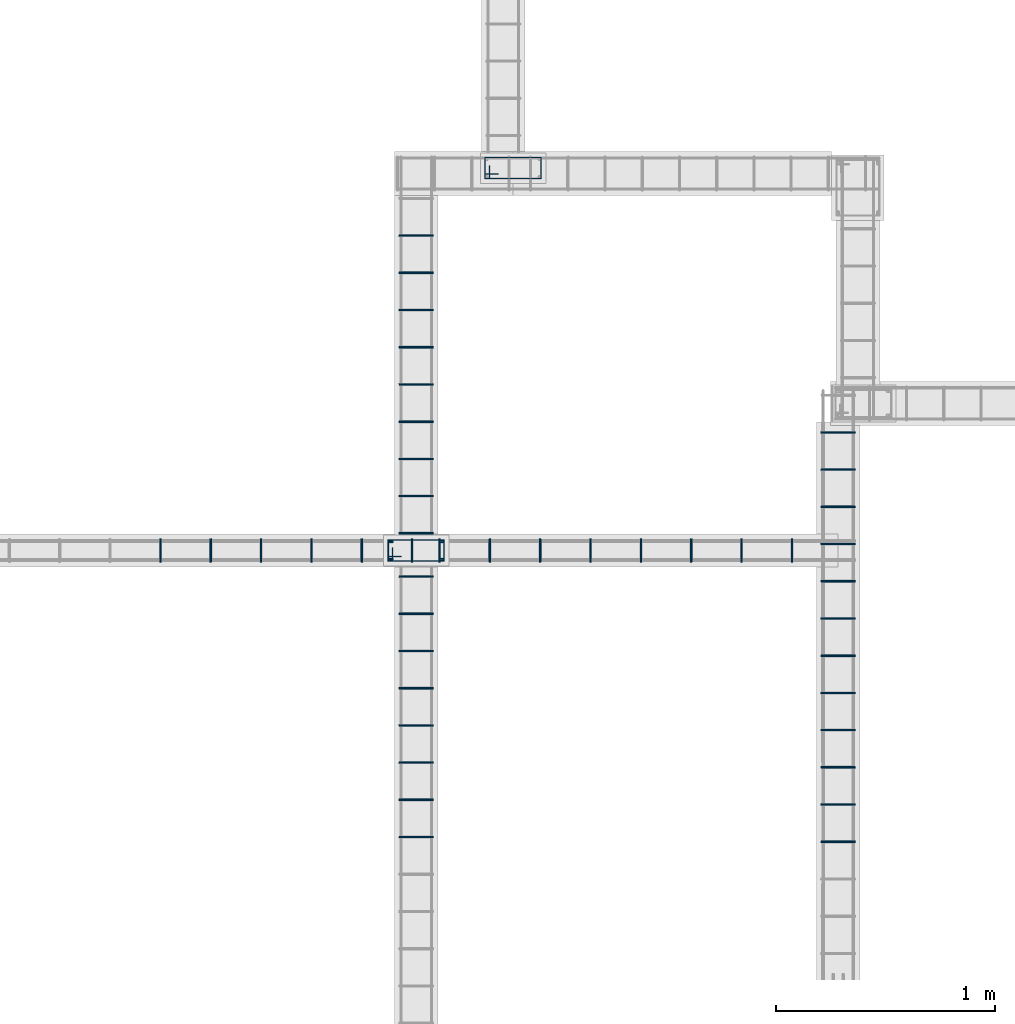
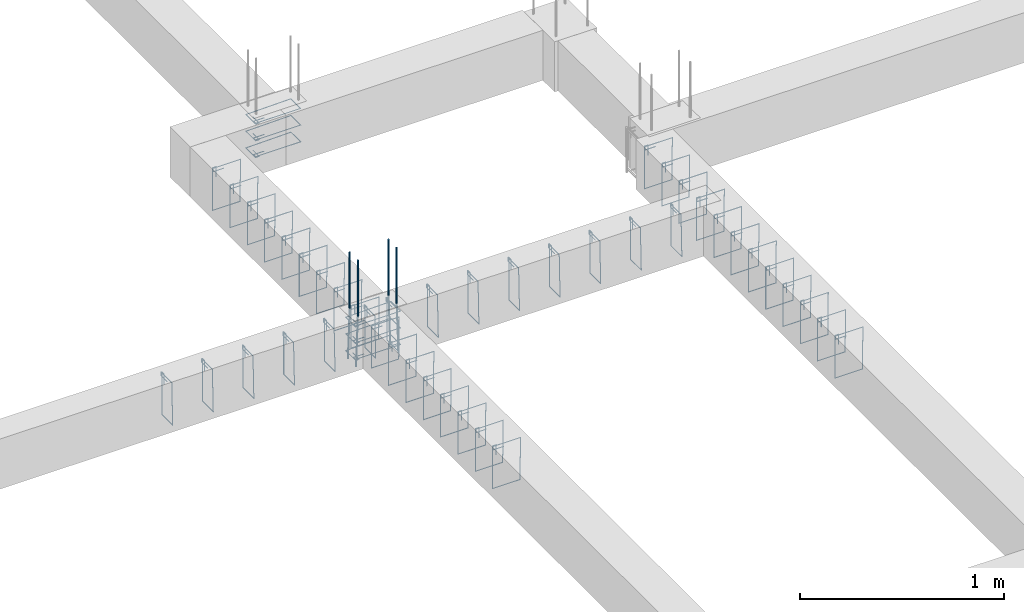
# One storey, part 76 of 150: 53 reinforcing bars.
"""IFC4 building model written with IfcOpenShell, lengths in centimetres."""

import ifcopenshell
import ifcopenshell.guid

model = None  # the IFC model being written
_history = None  # IfcOwnerHistory: only IFC2X3 demands one
_inside = {}  # id of a spatial element -> (the spatial element, [elements in it])
_under = {}  # id of a project, library or spatial element -> (it, [spatial elements below it])
_declared = {}  # id of a project -> (the project, [libraries it declares])
_typed = {}  # id of a type object -> (the type object, [elements of that type])
_made_of = {}  # id of a material, layer set ... -> (it, [elements and type objects made of it])


def new_model(schema):
    """Start an empty IFC model of exactly this schema.

    Asked for "IFC4X3", IfcOpenShell would pick the latest addendum, in which some entities
    have other attributes; the version numbers below select the first issue.
    IFC2X3 requires an IfcOwnerHistory on every rooted entity: one is made here for all.
    """
    global model, _history
    if schema == "IFC4X3":
        model = ifcopenshell.file(schema_version=(4, 3, 0, 0))
    else:
        model = ifcopenshell.file(schema=schema)
    _inside.clear()
    _under.clear()
    _declared.clear()
    _typed.clear()
    _made_of.clear()
    _history = None
    if model.schema == "IFC2X3":
        org = make("IfcOrganization", Name="unknown")
        user = make(
            "IfcPersonAndOrganization",
            ThePerson=make("IfcPerson", FamilyName="unknown"),
            TheOrganization=org,
        )
        app = make(
            "IfcApplication",
            ApplicationDeveloper=org,
            Version="unknown",
            ApplicationFullName="unknown",
            ApplicationIdentifier="unknown",
        )
        _history = make(
            "IfcOwnerHistory",
            OwningUser=user,
            OwningApplication=app,
            ChangeAction="ADDED",
            CreationDate=0,
        )
    return model


def make(cls, **values):
    """One entity of the class cls with the attributes given. An attribute that is None is left unset."""
    return model.create_entity(
        cls, **{name: value for name, value in values.items() if value is not None}
    )


def entity(cls, *values):
    """Any entity or typed value of the class cls, its attributes in the order of the schema. None: left unset."""
    e = model.create_entity(cls)
    for i, value in enumerate(values):
        if value is not None:
            e[i] = value
    return e


def rooted(cls, **values):
    """An entity with a GlobalId (a new one), such as an element, a storey or a relation."""
    return make(cls, GlobalId=ifcopenshell.guid.new(), OwnerHistory=_history, **values)


def si_unit(unit_type, name, prefix=None):
    """IfcSIUnit, for example si_unit("LENGTHUNIT", "METRE", prefix="MILLI")."""
    return make("IfcSIUnit", UnitType=unit_type, Prefix=prefix, Name=name)


def derived_unit(unit_type, elements):
    """IfcDerivedUnit: a product of units, each with its exponent."""
    return make(
        "IfcDerivedUnit",
        Elements=[
            make("IfcDerivedUnitElement", Unit=unit, Exponent=power)
            for unit, power in elements
        ],
        UnitType=unit_type,
    )


def assignment(units):
    """IfcUnitAssignment: the units of a project."""
    return None if units is None else make("IfcUnitAssignment", Units=units)


def point(xyz):
    """IfcCartesianPoint."""
    return None if xyz is None else make("IfcCartesianPoint", Coordinates=xyz)


def direction(xyz):
    """IfcDirection."""
    return None if xyz is None else make("IfcDirection", DirectionRatios=xyz)


def frame(location, z_axis=None, x_axis=None):
    """IfcAxis2Placement3D, a coordinate frame: its origin and axes. An axis left out is left unset."""
    return make(
        "IfcAxis2Placement3D",
        Location=point(location),
        Axis=direction(z_axis),
        RefDirection=direction(x_axis),
    )


def origin_with_axes():
    """The frame at (0, 0, 0) with the z axis (0, 0, 1) and the x axis (1, 0, 0) written out."""
    return frame((0.0, 0.0, 0.0), z_axis=(0.0, 0.0, 1.0), x_axis=(1.0, 0.0, 0.0))


def place(relative_to, where):
    """IfcLocalPlacement: puts the frame where relative to a parent placement (None: the world)."""
    return make(
        "IfcLocalPlacement", PlacementRelTo=relative_to, RelativePlacement=where
    )


def context(
    kind, dimensions, precision=None, world=None, true_north=None, identifier=None
):
    """IfcGeometricRepresentationContext, for example the 3D "Model" context."""
    return make(
        "IfcGeometricRepresentationContext",
        ContextIdentifier=identifier,
        ContextType=kind,
        CoordinateSpaceDimension=dimensions,
        Precision=precision,
        WorldCoordinateSystem=world,
        TrueNorth=true_north,
    )


def project(units=None, contexts=None):
    """IfcProject with its units and contexts."""
    return rooted(
        "IfcProject",
        Name="project",
        RepresentationContexts=contexts,
        UnitsInContext=assignment(units),
    )


def spatial(cls, under=None, at=None, **own):
    """A site, building, storey or space (cls), placed at a placement, below another one or the project."""
    s = rooted(cls, ObjectPlacement=at, **own)
    if under is not None:
        _under.setdefault(under.id(), (under, []))[1].append(s)
    return s


def shape(context_of_items, identifier, shape_type, items):
    """IfcShapeRepresentation: the items that make up one representation, for example the "Body"."""
    return make(
        "IfcShapeRepresentation",
        ContextOfItems=context_of_items,
        RepresentationIdentifier=identifier,
        RepresentationType=shape_type,
        Items=items,
    )


def source(mapping_origin, context_of_items, identifier, shape_type, items):
    """IfcRepresentationMap: a shape defined once, which mapped items show again and again."""
    return make(
        "IfcRepresentationMap",
        MappingOrigin=mapping_origin,
        MappedRepresentation=shape(context_of_items, identifier, shape_type, items),
    )


def transform(
    local_origin,
    x_axis=None,
    y_axis=None,
    z_axis=None,
    scale=None,
    scale2=None,
    scale3=None,
    uniform=True,
):
    """IfcCartesianTransformationOperator3D, or its non-uniform kind. x_axis, y_axis, z_axis: its Axis1, 2, 3."""
    if uniform:
        return make(
            "IfcCartesianTransformationOperator3D",
            Axis1=direction(x_axis),
            Axis2=direction(y_axis),
            LocalOrigin=point(local_origin),
            Scale=scale,
            Axis3=direction(z_axis),
        )
    return make(
        "IfcCartesianTransformationOperator3DnonUniform",
        Axis1=direction(x_axis),
        Axis2=direction(y_axis),
        LocalOrigin=point(local_origin),
        Scale=scale,
        Axis3=direction(z_axis),
        Scale2=scale2,
        Scale3=scale3,
    )


def mapped(mapping_source, mapping_target):
    """IfcMappedItem: shows the shape of a source again, moved by a transform."""
    return make(
        "IfcMappedItem", MappingSource=mapping_source, MappingTarget=mapping_target
    )


def made_of(thing, what):
    """Note that an element or type object is made of a material, layer set ...; save() writes the relation."""
    if what is not None:
        _made_of.setdefault(what.id(), (what, []))[1].append(thing)
    return thing


def element(
    cls,
    number,
    at=None,
    inside=None,
    cuts=None,
    type_object=None,
    material=None,
    context=None,
    identifier="Body",
    shape_type=None,
    held_by="IfcProductDefinitionShape",
    body=None,
    shapes=None,
    **own,
):
    """One element of the class cls, such as IfcWall. Its Tag is "e" and its number.

    at: its placement. inside: the storey or other place that contains it. cuts: it is an
    opening in that element (IfcRelVoidsElement). A single representation is given by context,
    identifier, shape_type and body (its items); several are given by shapes. held_by: the class
    of the entity that holds the representations. save() writes the other relations.
    """
    e = rooted(cls, Tag="e%d" % number, ObjectPlacement=at, **own)
    if body is not None:
        shapes = [shape(context, identifier, shape_type, body)]
    if shapes is not None:
        e.Representation = make(held_by, Representations=shapes)
    if inside is not None:
        _inside.setdefault(inside.id(), (inside, []))[1].append(e)
    if cuts is not None:
        rooted(
            "IfcRelVoidsElement", RelatingBuildingElement=cuts, RelatedOpeningElement=e
        )
    if type_object is not None:
        _typed.setdefault(type_object.id(), (type_object, []))[1].append(e)
    return made_of(e, material)


def aggregate(whole, parts):
    """IfcRelAggregates: a whole, such as a stair, and the parts it consists of."""
    return rooted("IfcRelAggregates", RelatingObject=whole, RelatedObjects=parts)


def save(model, path):
    """Write the relations noted so far, then the file.

    IfcRelAggregates (storeys below a building ...), IfcRelContainedInSpatialStructure (elements
    in a storey), IfcRelDefinesByType, IfcRelAssociatesMaterial and IfcRelDeclares: one each for
    every whole, place, type object, material and project.
    """
    for whole, parts in _under.values():
        aggregate(whole, parts)
    for where, things in _inside.values():
        rooted(
            "IfcRelContainedInSpatialStructure",
            RelatedElements=things,
            RelatingStructure=where,
        )
    for kind, things in _typed.values():
        rooted("IfcRelDefinesByType", RelatedObjects=things, RelatingType=kind)
    for what, things in _made_of.values():
        rooted("IfcRelAssociatesMaterial", RelatedObjects=things, RelatingMaterial=what)
    for by, libraries in _declared.values():
        rooted("IfcRelDeclares", RelatingContext=by, RelatedDefinitions=libraries)
    model.write(path)


model = new_model("IFC4")

# Units and contexts
model_context = context("Model", 3, precision=1e-05, world=origin_with_axes(), identifier="Body")
ifc_project = project(units=[si_unit("LENGTHUNIT", "METRE", prefix="CENTI"), si_unit("VOLUMEUNIT", "CUBIC_METRE"), si_unit("AREAUNIT", "SQUARE_METRE"), si_unit("POWERUNIT", "WATT"), si_unit("LUMINOUSFLUXUNIT", "LUMEN"), si_unit("ELECTRICCURRENTUNIT", "AMPERE"), si_unit("PRESSUREUNIT", "PASCAL", prefix="KILO"), si_unit("MASSUNIT", "GRAM", prefix="KILO"), si_unit("PLANEANGLEUNIT", "RADIAN"), derived_unit("VOLUMETRICFLOWRATEUNIT", [(si_unit("LENGTHUNIT", "METRE"), 3), (si_unit("TIMEUNIT", "SECOND"), -1)])], contexts=[model_context])

# Site, building, storey
site_placement = place(None, frame((-4000.0, 0.0, 0.0), z_axis=(0.0, 0.0, 1.0), x_axis=(1.0, 0.0, 0.0)))
site = spatial("IfcSite", under=ifc_project, at=site_placement, Name="PADRÃO")
building_placement = place(site_placement, frame((0.0, 0.0, -14.0)))
building = spatial("IfcBuilding", under=site, at=building_placement, Name="CRECHE PRÉ-ESCOLA TIPO 2")
placement = place(building_placement, origin_with_axes())
storey_placement = place(placement, frame((0.0, 0.0, 30.0), z_axis=(0.0, 0.0, 1.0), x_axis=(1.0, 0.0, 0.0)))
storey = spatial("IfcBuildingStorey", under=building, at=storey_placement, Name="VIGA BALDRAME", CompositionType="ELEMENT", Elevation=16.0)

# Reinforcing bars
shared_shape_1 = source(origin_with_axes(), model_context, "Body", "AdvancedSweptSolid", [
    entity("IfcSweptDiskSolid", entity("IfcCompositeCurve", [entity("IfcCompositeCurveSegment", "CONTINUOUS", True, entity("IfcPolyline", [entity("IfcCartesianPoint", [4.25, 21.75, 0.0]), entity("IfcCartesianPoint", [4.25, 27.75, 0.0])])), entity("IfcCompositeCurveSegment", "CONTINUOUS", True, entity("IfcPolyline", [entity("IfcCartesianPoint", [4.25, 27.75, 0.0]), entity("IfcCartesianPoint", [2.25, 27.75, 0.0])])), entity("IfcCompositeCurveSegment", "CONTINUOUS", True, entity("IfcPolyline", [entity("IfcCartesianPoint", [2.25, 27.75, 0.0]), entity("IfcCartesianPoint", [2.25, 2.25, 0.0])])), entity("IfcCompositeCurveSegment", "CONTINUOUS", True, entity("IfcPolyline", [entity("IfcCartesianPoint", [2.25, 2.25, 0.0]), entity("IfcCartesianPoint", [11.75, 2.25, 0.0])])), entity("IfcCompositeCurveSegment", "CONTINUOUS", True, entity("IfcPolyline", [entity("IfcCartesianPoint", [11.75, 2.25, 0.0]), entity("IfcCartesianPoint", [11.75, 27.75, -0.5])])), entity("IfcCompositeCurveSegment", "CONTINUOUS", True, entity("IfcPolyline", [entity("IfcCartesianPoint", [11.75, 27.75, -0.5]), entity("IfcCartesianPoint", [2.25, 27.75, -0.5])])), entity("IfcCompositeCurveSegment", "CONTINUOUS", True, entity("IfcPolyline", [entity("IfcCartesianPoint", [2.25, 27.75, -0.5]), entity("IfcCartesianPoint", [2.25, 25.75, -0.5])])), entity("IfcCompositeCurveSegment", "CONTINUOUS", True, entity("IfcPolyline", [entity("IfcCartesianPoint", [2.25, 25.75, -0.5]), entity("IfcCartesianPoint", [8.25, 25.75, -0.5])]))], False), 0.25),
])
for number, where, z_axis, x_axis, name in (
    (1, (3002.5, 1915.52, -5.0), (0.0, 0.0, 1.0), (0.0, 1.0, 0.0), "P91 - Estribo"),
    (2, (3002.5, 1915.52, -25.0), (0.0, 0.0, 1.0), (0.0, 1.0, 0.0), "P91 - Estribo"),
    (3, (3002.5, 1915.52, -15.0), (0.0, 0.0, 1.0), (0.0, 1.0, 0.0), "P91 - Estribo"),
):
    element("IfcReinforcingBar", number, at=place(storey_placement, frame(where, z_axis=z_axis, x_axis=x_axis)), inside=storey, Name=name, BarLength=0.0, CrossSectionArea=1.9634954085e-05, NominalDiameter=0.5, PredefinedType="MAIN", context=model_context, shape_type="MappedRepresentation", body=[
        mapped(shared_shape_1, transform((0.0, 0.0, 0.0), scale=1.0)),
    ])
shared_shape_2 = source(origin_with_axes(), model_context, "Body", "AdvancedSweptSolid", [
    entity("IfcSweptDiskSolid", entity("IfcCompositeCurve", [entity("IfcCompositeCurveSegment", "CONTINUOUS", True, entity("IfcPolyline", [entity("IfcCartesianPoint", [4.25, 21.75, 0.0]), entity("IfcCartesianPoint", [4.25, 27.75, 0.0])])), entity("IfcCompositeCurveSegment", "CONTINUOUS", True, entity("IfcPolyline", [entity("IfcCartesianPoint", [4.25, 27.75, 0.0]), entity("IfcCartesianPoint", [2.25, 27.75, 0.0])])), entity("IfcCompositeCurveSegment", "CONTINUOUS", True, entity("IfcPolyline", [entity("IfcCartesianPoint", [2.25, 27.75, 0.0]), entity("IfcCartesianPoint", [2.25, 2.25, 0.0])])), entity("IfcCompositeCurveSegment", "CONTINUOUS", True, entity("IfcPolyline", [entity("IfcCartesianPoint", [2.25, 2.25, 0.0]), entity("IfcCartesianPoint", [11.75, 2.25, 0.0])])), entity("IfcCompositeCurveSegment", "CONTINUOUS", True, entity("IfcPolyline", [entity("IfcCartesianPoint", [11.75, 2.25, 0.0]), entity("IfcCartesianPoint", [11.75, 27.75, -0.5])])), entity("IfcCompositeCurveSegment", "CONTINUOUS", True, entity("IfcPolyline", [entity("IfcCartesianPoint", [11.75, 27.75, -0.5]), entity("IfcCartesianPoint", [2.25, 27.75, -0.5])])), entity("IfcCompositeCurveSegment", "CONTINUOUS", True, entity("IfcPolyline", [entity("IfcCartesianPoint", [2.25, 27.75, -0.5]), entity("IfcCartesianPoint", [2.25, 25.75, -0.5])])), entity("IfcCompositeCurveSegment", "CONTINUOUS", True, entity("IfcPolyline", [entity("IfcCartesianPoint", [2.25, 25.75, -0.5]), entity("IfcCartesianPoint", [8.25, 25.75, -0.5])]))], False), 0.25),
])
for number, where, z_axis, x_axis, name in (
    (4, (2958.24, 1740.84, -5.0), (0.0, 0.0, 1.0), (0.0, 1.0, 0.0), "P99 - Estribo"),
    (5, (2958.24, 1740.84, -15.0), (0.0, 0.0, 1.0), (0.0, 1.0, 0.0), "P99 - Estribo"),
    (6, (2958.24, 1740.84, -25.0), (0.0, 0.0, 1.0), (0.0, 1.0, 0.0), "P99 - Estribo"),
):
    element("IfcReinforcingBar", number, at=place(storey_placement, frame(where, z_axis=z_axis, x_axis=x_axis)), inside=storey, Name=name, BarLength=0.0, CrossSectionArea=1.9634954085e-05, NominalDiameter=0.5, PredefinedType="MAIN", context=model_context, shape_type="MappedRepresentation", body=[
        mapped(shared_shape_2, transform((0.0, 0.0, 0.0), scale=1.0)),
    ])
shared_shape_3 = source(origin_with_axes(), model_context, "Body", "AdvancedSweptSolid", [
    entity("IfcSweptDiskSolid", entity("IfcCompositeCurve", [entity("IfcCompositeCurveSegment", "CONTINUOUS", True, entity("IfcPolyline", [entity("IfcCartesianPoint", [2.0, -6.0, 0.0]), entity("IfcCartesianPoint", [2.0, 0.0, 0.0])])), entity("IfcCompositeCurveSegment", "CONTINUOUS", True, entity("IfcPolyline", [entity("IfcCartesianPoint", [2.0, 0.0, 0.0]), entity("IfcCartesianPoint", [0.0, 0.0, 0.0])])), entity("IfcCompositeCurveSegment", "CONTINUOUS", True, entity("IfcPolyline", [entity("IfcCartesianPoint", [0.0, 0.0, 0.0]), entity("IfcCartesianPoint", [0.0, -25.5, 0.0])])), entity("IfcCompositeCurveSegment", "CONTINUOUS", True, entity("IfcPolyline", [entity("IfcCartesianPoint", [0.0, -25.5, 0.0]), entity("IfcCartesianPoint", [15.5, -25.5, 0.0])])), entity("IfcCompositeCurveSegment", "CONTINUOUS", True, entity("IfcPolyline", [entity("IfcCartesianPoint", [15.5, -25.5, 0.0]), entity("IfcCartesianPoint", [15.5, 0.0, 0.5])])), entity("IfcCompositeCurveSegment", "CONTINUOUS", True, entity("IfcPolyline", [entity("IfcCartesianPoint", [15.5, 0.0, 0.5]), entity("IfcCartesianPoint", [0.0, 0.0, 0.5])])), entity("IfcCompositeCurveSegment", "CONTINUOUS", True, entity("IfcPolyline", [entity("IfcCartesianPoint", [0.0, 0.0, 0.5]), entity("IfcCartesianPoint", [0.0, -2.0, 0.5])])), entity("IfcCompositeCurveSegment", "CONTINUOUS", True, entity("IfcPolyline", [entity("IfcCartesianPoint", [0.0, -2.0, 0.5]), entity("IfcCartesianPoint", [6.0, -2.0, 0.5])]))], False), 0.25),
])
for number, where, z_axis, x_axis, name in (
    (7, (3128.25, 1751.02, -2.25), (0.0, -1.0, 0.0), (1.0, 0.0, 0.0), "V216 - Estribo"),
    (8, (3128.25, 1768.02, -2.25), (0.0, -1.0, 0.0), (1.0, 0.0, 0.0), "V216 - Estribo"),
    (9, (3128.25, 1785.02, -2.25), (0.0, -1.0, 0.0), (1.0, 0.0, 0.0), "V216 - Estribo"),
    (10, (3128.25, 1802.02, -2.25), (0.0, -1.0, 0.0), (1.0, 0.0, 0.0), "V216 - Estribo"),
    (11, (3128.25, 1615.02, -2.25), (0.0, -1.0, 0.0), (1.0, 0.0, 0.0), "V216 - Estribo"),
    (12, (3128.25, 1632.02, -2.25), (0.0, -1.0, 0.0), (1.0, 0.0, 0.0), "V216 - Estribo"),
    (13, (3128.25, 1649.02, -2.25), (0.0, -1.0, 0.0), (1.0, 0.0, 0.0), "V216 - Estribo"),
    (14, (3128.25, 1666.02, -2.25), (0.0, -1.0, 0.0), (1.0, 0.0, 0.0), "V216 - Estribo"),
    (15, (3128.25, 1683.02, -2.25), (0.0, -1.0, 0.0), (1.0, 0.0, 0.0), "V216 - Estribo"),
    (16, (3128.25, 1700.02, -2.25), (0.0, -1.0, 0.0), (1.0, 0.0, 0.0), "V216 - Estribo"),
    (17, (3128.25, 1717.02, -2.25), (0.0, -1.0, 0.0), (1.0, 0.0, 0.0), "V216 - Estribo"),
    (18, (3128.25, 1734.02, -2.25), (0.0, -1.0, 0.0), (1.0, 0.0, 0.0), "V216 - Estribo"),
):
    element("IfcReinforcingBar", number, at=place(storey_placement, frame(where, z_axis=z_axis, x_axis=x_axis)), inside=storey, Name=name, BarLength=0.0, CrossSectionArea=1.9634954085e-05, NominalDiameter=0.5, PredefinedType="MAIN", context=model_context, shape_type="MappedRepresentation", body=[
        mapped(shared_shape_3, transform((0.0, 0.0, 0.0), scale=1.0)),
    ])
shared_shape_4 = source(origin_with_axes(), model_context, "Body", "AdvancedSweptSolid", [
    entity("IfcSweptDiskSolid", entity("IfcCompositeCurve", [entity("IfcCompositeCurveSegment", "CONTINUOUS", True, entity("IfcPolyline", [entity("IfcCartesianPoint", [2.0, -6.0, 0.0]), entity("IfcCartesianPoint", [2.0, 0.0, 0.0])])), entity("IfcCompositeCurveSegment", "CONTINUOUS", True, entity("IfcPolyline", [entity("IfcCartesianPoint", [2.0, 0.0, 0.0]), entity("IfcCartesianPoint", [0.0, 0.0, 0.0])])), entity("IfcCompositeCurveSegment", "CONTINUOUS", True, entity("IfcPolyline", [entity("IfcCartesianPoint", [0.0, 0.0, 0.0]), entity("IfcCartesianPoint", [0.0, -25.5, 0.0])])), entity("IfcCompositeCurveSegment", "CONTINUOUS", True, entity("IfcPolyline", [entity("IfcCartesianPoint", [0.0, -25.5, 0.0]), entity("IfcCartesianPoint", [15.5, -25.5, 0.0])])), entity("IfcCompositeCurveSegment", "CONTINUOUS", True, entity("IfcPolyline", [entity("IfcCartesianPoint", [15.5, -25.5, 0.0]), entity("IfcCartesianPoint", [15.5, 0.0, 0.5])])), entity("IfcCompositeCurveSegment", "CONTINUOUS", True, entity("IfcPolyline", [entity("IfcCartesianPoint", [15.5, 0.0, 0.5]), entity("IfcCartesianPoint", [0.0, 0.0, 0.5])])), entity("IfcCompositeCurveSegment", "CONTINUOUS", True, entity("IfcPolyline", [entity("IfcCartesianPoint", [0.0, 0.0, 0.5]), entity("IfcCartesianPoint", [0.0, -2.0, 0.5])])), entity("IfcCompositeCurveSegment", "CONTINUOUS", True, entity("IfcPolyline", [entity("IfcCartesianPoint", [0.0, -2.0, 0.5]), entity("IfcCartesianPoint", [6.0, -2.0, 0.5])]))], False), 0.25),
])
for number, where, z_axis, x_axis, name in (
    (19, (2935.49, 1617.175, -2.25), (0.0, -1.0, 0.0), (1.0, 0.0, 0.0), "V211 - Estribo"),
    (20, (2935.49, 1634.175, -2.25), (0.0, -1.0, 0.0), (1.0, 0.0, 0.0), "V211 - Estribo"),
    (21, (2935.49, 1651.175, -2.25), (0.0, -1.0, 0.0), (1.0, 0.0, 0.0), "V211 - Estribo"),
    (22, (2935.49, 1668.175, -2.25), (0.0, -1.0, 0.0), (1.0, 0.0, 0.0), "V211 - Estribo"),
    (23, (2935.49, 1685.175, -2.25), (0.0, -1.0, 0.0), (1.0, 0.0, 0.0), "V211 - Estribo"),
    (24, (2935.49, 1702.175, -2.25), (0.0, -1.0, 0.0), (1.0, 0.0, 0.0), "V211 - Estribo"),
    (25, (2935.49, 1719.175, -2.25), (0.0, -1.0, 0.0), (1.0, 0.0, 0.0), "V211 - Estribo"),
    (26, (2935.49, 1736.175, -2.25), (0.0, -1.0, 0.0), (1.0, 0.0, 0.0), "V211 - Estribo"),
):
    element("IfcReinforcingBar", number, at=place(storey_placement, frame(where, z_axis=z_axis, x_axis=x_axis)), inside=storey, Name=name, BarLength=0.0, CrossSectionArea=1.9634954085e-05, NominalDiameter=0.5, PredefinedType="MAIN", context=model_context, shape_type="MappedRepresentation", body=[
        mapped(shared_shape_4, transform((0.0, 0.0, 0.0), scale=1.0)),
    ])
shared_shape_5 = source(origin_with_axes(), model_context, "Body", "AdvancedSweptSolid", [
    entity("IfcSweptDiskSolid", entity("IfcCompositeCurve", [entity("IfcCompositeCurveSegment", "CONTINUOUS", True, entity("IfcPolyline", [entity("IfcCartesianPoint", [2.0, -6.0, 0.0]), entity("IfcCartesianPoint", [2.0, 0.0, 0.0])])), entity("IfcCompositeCurveSegment", "CONTINUOUS", True, entity("IfcPolyline", [entity("IfcCartesianPoint", [2.0, 0.0, 0.0]), entity("IfcCartesianPoint", [0.0, 0.0, 0.0])])), entity("IfcCompositeCurveSegment", "CONTINUOUS", True, entity("IfcPolyline", [entity("IfcCartesianPoint", [0.0, 0.0, 0.0]), entity("IfcCartesianPoint", [0.0, -25.5, 0.0])])), entity("IfcCompositeCurveSegment", "CONTINUOUS", True, entity("IfcPolyline", [entity("IfcCartesianPoint", [0.0, -25.5, 0.0]), entity("IfcCartesianPoint", [15.5, -25.5, 0.0])])), entity("IfcCompositeCurveSegment", "CONTINUOUS", True, entity("IfcPolyline", [entity("IfcCartesianPoint", [15.5, -25.5, 0.0]), entity("IfcCartesianPoint", [15.5, 0.0, 0.5])])), entity("IfcCompositeCurveSegment", "CONTINUOUS", True, entity("IfcPolyline", [entity("IfcCartesianPoint", [15.5, 0.0, 0.5]), entity("IfcCartesianPoint", [0.0, 0.0, 0.5])])), entity("IfcCompositeCurveSegment", "CONTINUOUS", True, entity("IfcPolyline", [entity("IfcCartesianPoint", [0.0, 0.0, 0.5]), entity("IfcCartesianPoint", [0.0, -2.0, 0.5])])), entity("IfcCompositeCurveSegment", "CONTINUOUS", True, entity("IfcPolyline", [entity("IfcCartesianPoint", [0.0, -2.0, 0.5]), entity("IfcCartesianPoint", [6.0, -2.0, 0.5])]))], False), 0.25),
])
for number, where, z_axis, x_axis, name in (
    (27, (2935.49, 1755.93, -2.25), (0.0, -1.0, 0.0), (1.0, 0.0, 0.0), "V211 - Estribo"),
    (28, (2935.49, 1772.93, -2.25), (0.0, -1.0, 0.0), (1.0, 0.0, 0.0), "V211 - Estribo"),
    (29, (2935.49, 1789.93, -2.25), (0.0, -1.0, 0.0), (1.0, 0.0, 0.0), "V211 - Estribo"),
    (30, (2935.49, 1806.93, -2.25), (0.0, -1.0, 0.0), (1.0, 0.0, 0.0), "V211 - Estribo"),
    (31, (2935.49, 1823.93, -2.25), (0.0, -1.0, 0.0), (1.0, 0.0, 0.0), "V211 - Estribo"),
    (32, (2935.49, 1840.93, -2.25), (0.0, -1.0, 0.0), (1.0, 0.0, 0.0), "V211 - Estribo"),
    (33, (2935.49, 1857.93, -2.25), (0.0, -1.0, 0.0), (1.0, 0.0, 0.0), "V211 - Estribo"),
    (34, (2935.49, 1874.93, -2.25), (0.0, -1.0, 0.0), (1.0, 0.0, 0.0), "V211 - Estribo"),
    (35, (2935.49, 1891.93, -2.25), (0.0, -1.0, 0.0), (1.0, 0.0, 0.0), "V211 - Estribo"),
):
    element("IfcReinforcingBar", number, at=place(storey_placement, frame(where, z_axis=z_axis, x_axis=x_axis)), inside=storey, Name=name, BarLength=0.0, CrossSectionArea=1.9634954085e-05, NominalDiameter=0.5, PredefinedType="MAIN", context=model_context, shape_type="MappedRepresentation", body=[
        mapped(shared_shape_5, transform((0.0, 0.0, 0.0), scale=1.0)),
    ])
shared_shape_6 = source(origin_with_axes(), model_context, "Body", "AdvancedSweptSolid", [
    entity("IfcSweptDiskSolid", entity("IfcCompositeCurve", [entity("IfcCompositeCurveSegment", "CONTINUOUS", True, entity("IfcPolyline", [entity("IfcCartesianPoint", [2.0, -6.0, 0.0]), entity("IfcCartesianPoint", [2.0, 0.0, 0.0])])), entity("IfcCompositeCurveSegment", "CONTINUOUS", True, entity("IfcPolyline", [entity("IfcCartesianPoint", [2.0, 0.0, 0.0]), entity("IfcCartesianPoint", [0.0, 0.0, 0.0])])), entity("IfcCompositeCurveSegment", "CONTINUOUS", True, entity("IfcPolyline", [entity("IfcCartesianPoint", [0.0, 0.0, 0.0]), entity("IfcCartesianPoint", [0.0, -25.5, 0.0])])), entity("IfcCompositeCurveSegment", "CONTINUOUS", True, entity("IfcPolyline", [entity("IfcCartesianPoint", [0.0, -25.5, 0.0]), entity("IfcCartesianPoint", [10.5, -25.5, 0.0])])), entity("IfcCompositeCurveSegment", "CONTINUOUS", True, entity("IfcPolyline", [entity("IfcCartesianPoint", [10.5, -25.5, 0.0]), entity("IfcCartesianPoint", [10.5, 0.0, 0.5])])), entity("IfcCompositeCurveSegment", "CONTINUOUS", True, entity("IfcPolyline", [entity("IfcCartesianPoint", [10.5, 0.0, 0.5]), entity("IfcCartesianPoint", [0.0, 0.0, 0.5])])), entity("IfcCompositeCurveSegment", "CONTINUOUS", True, entity("IfcPolyline", [entity("IfcCartesianPoint", [0.0, 0.0, 0.5]), entity("IfcCartesianPoint", [0.0, -2.0, 0.5])])), entity("IfcCompositeCurveSegment", "CONTINUOUS", True, entity("IfcPolyline", [entity("IfcCartesianPoint", [0.0, -2.0, 0.5]), entity("IfcCartesianPoint", [6.0, -2.0, 0.5])]))], False), 0.25),
])
for number, where, z_axis, x_axis, name in (
    (36, (2941.62, 1753.09, -2.25), (-1.0, 0.0, 0.0), (0.0, -1.0, 0.0), "V133 - Estribo"),
    (37, (2918.62, 1753.09, -2.25), (-1.0, 0.0, 0.0), (0.0, -1.0, 0.0), "V133 - Estribo"),
    (38, (2895.62, 1753.09, -2.25), (-1.0, 0.0, 0.0), (0.0, -1.0, 0.0), "V133 - Estribo"),
    (39, (2872.62, 1753.09, -2.25), (-1.0, 0.0, 0.0), (0.0, -1.0, 0.0), "V133 - Estribo"),
    (40, (2826.62, 1753.09, -2.25), (-1.0, 0.0, 0.0), (0.0, -1.0, 0.0), "V133 - Estribo"),
    (41, (2849.62, 1753.09, -2.25), (-1.0, 0.0, 0.0), (0.0, -1.0, 0.0), "V133 - Estribo"),
):
    element("IfcReinforcingBar", number, at=place(storey_placement, frame(where, z_axis=z_axis, x_axis=x_axis)), inside=storey, Name=name, BarLength=0.0, CrossSectionArea=1.9634954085e-05, NominalDiameter=0.5, PredefinedType="MAIN", context=model_context, shape_type="MappedRepresentation", body=[
        mapped(shared_shape_6, transform((0.0, 0.0, 0.0), scale=1.0)),
    ])
shared_shape_7 = source(origin_with_axes(), model_context, "Body", "AdvancedSweptSolid", [
    entity("IfcSweptDiskSolid", entity("IfcCompositeCurve", [entity("IfcCompositeCurveSegment", "CONTINUOUS", True, entity("IfcPolyline", [entity("IfcCartesianPoint", [2.0, -6.0, 0.0]), entity("IfcCartesianPoint", [2.0, 0.0, 0.0])])), entity("IfcCompositeCurveSegment", "CONTINUOUS", True, entity("IfcPolyline", [entity("IfcCartesianPoint", [2.0, 0.0, 0.0]), entity("IfcCartesianPoint", [0.0, 0.0, 0.0])])), entity("IfcCompositeCurveSegment", "CONTINUOUS", True, entity("IfcPolyline", [entity("IfcCartesianPoint", [0.0, 0.0, 0.0]), entity("IfcCartesianPoint", [0.0, -25.5, 0.0])])), entity("IfcCompositeCurveSegment", "CONTINUOUS", True, entity("IfcPolyline", [entity("IfcCartesianPoint", [0.0, -25.5, 0.0]), entity("IfcCartesianPoint", [10.5, -25.5, 0.0])])), entity("IfcCompositeCurveSegment", "CONTINUOUS", True, entity("IfcPolyline", [entity("IfcCartesianPoint", [10.5, -25.5, 0.0]), entity("IfcCartesianPoint", [10.5, 0.0, 0.5])])), entity("IfcCompositeCurveSegment", "CONTINUOUS", True, entity("IfcPolyline", [entity("IfcCartesianPoint", [10.5, 0.0, 0.5]), entity("IfcCartesianPoint", [0.0, 0.0, 0.5])])), entity("IfcCompositeCurveSegment", "CONTINUOUS", True, entity("IfcPolyline", [entity("IfcCartesianPoint", [0.0, 0.0, 0.5]), entity("IfcCartesianPoint", [0.0, -2.0, 0.5])])), entity("IfcCompositeCurveSegment", "CONTINUOUS", True, entity("IfcPolyline", [entity("IfcCartesianPoint", [0.0, -2.0, 0.5]), entity("IfcCartesianPoint", [6.0, -2.0, 0.5])]))], False), 0.25),
])
for number, where, z_axis, x_axis, name in (
    (42, (3115.12, 1753.09, -2.25), (-1.0, 0.0, 0.0), (0.0, -1.0, 0.0), "V133 - Estribo"),
    (43, (3092.12, 1753.09, -2.25), (-1.0, 0.0, 0.0), (0.0, -1.0, 0.0), "V133 - Estribo"),
    (44, (3069.12, 1753.09, -2.25), (-1.0, 0.0, 0.0), (0.0, -1.0, 0.0), "V133 - Estribo"),
    (45, (3046.12, 1753.09, -2.25), (-1.0, 0.0, 0.0), (0.0, -1.0, 0.0), "V133 - Estribo"),
    (46, (3000.12, 1753.09, -2.25), (-1.0, 0.0, 0.0), (0.0, -1.0, 0.0), "V133 - Estribo"),
    (47, (2977.12, 1753.09, -2.25), (-1.0, 0.0, 0.0), (0.0, -1.0, 0.0), "V133 - Estribo"),
    (48, (2954.12, 1753.09, -2.25), (-1.0, 0.0, 0.0), (0.0, -1.0, 0.0), "V133 - Estribo"),
    (49, (3023.12, 1753.09, -2.25), (-1.0, 0.0, 0.0), (0.0, -1.0, 0.0), "V133 - Estribo"),
):
    element("IfcReinforcingBar", number, at=place(storey_placement, frame(where, z_axis=z_axis, x_axis=x_axis)), inside=storey, Name=name, BarLength=0.0, CrossSectionArea=1.9634954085e-05, NominalDiameter=0.5, PredefinedType="MAIN", context=model_context, shape_type="MappedRepresentation", body=[
        mapped(shared_shape_7, transform((0.0, 0.0, 0.0), scale=1.0)),
    ])
reinforcing_bar_1_placement = place(storey_placement, frame((2931.74013877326, 1743.84, 33.3573001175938), z_axis=(0.0, 0.0, 1.0), x_axis=(1.0, 0.0, 0.0)))
element("IfcReinforcingBar", 50, at=reinforcing_bar_1_placement, inside=storey, Name="P99 - Longitudinal", BarLength=0.0, CrossSectionArea=7.853981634e-05, NominalDiameter=1.0, PredefinedType="MAIN", context=model_context, shape_type="AdvancedSweptSolid", body=[
    entity("IfcSweptDiskSolid", entity("IfcCompositeCurve", [entity("IfcCompositeCurveSegment", "CONTINUOUS", True, entity("IfcPolyline", [entity("IfcCartesianPoint", [-0.500138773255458, 0.0, -63.3573001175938]), entity("IfcCartesianPoint", [0.499861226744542, 0.0, -33.3573001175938])])), entity("IfcCompositeCurveSegment", "CONTINUOUS", True, entity("IfcPolyline", [entity("IfcCartesianPoint", [0.499861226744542, 0.0, -33.3573001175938]), entity("IfcCartesianPoint", [0.499861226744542, 0.0, 0.0])]))], False), 0.5),
])
reinforcing_bar_2_placement = place(storey_placement, frame((2954.73986122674, 1751.84, 33.3573001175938), z_axis=(0.0, 0.0, 1.0), x_axis=(1.0, 0.0, 0.0)))
element("IfcReinforcingBar", 51, at=reinforcing_bar_2_placement, inside=storey, Name="P99 - Longitudinal", BarLength=0.0, CrossSectionArea=7.853981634e-05, NominalDiameter=1.0, PredefinedType="MAIN", context=model_context, shape_type="AdvancedSweptSolid", body=[
    entity("IfcSweptDiskSolid", entity("IfcCompositeCurve", [entity("IfcCompositeCurveSegment", "CONTINUOUS", True, entity("IfcPolyline", [entity("IfcCartesianPoint", [0.500138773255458, 0.0, -63.3573001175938]), entity("IfcCartesianPoint", [-0.499861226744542, 0.0, -33.3573001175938])])), entity("IfcCompositeCurveSegment", "CONTINUOUS", True, entity("IfcPolyline", [entity("IfcCartesianPoint", [-0.499861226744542, 0.0, -33.3573001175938]), entity("IfcCartesianPoint", [-0.499861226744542, 0.0, 0.0])]))], False), 0.5),
])
reinforcing_bar_3_placement = place(storey_placement, frame((2931.74013877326, 1751.84, 33.3573001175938), z_axis=(0.0, 0.0, 1.0), x_axis=(1.0, 0.0, 0.0)))
element("IfcReinforcingBar", 52, at=reinforcing_bar_3_placement, inside=storey, Name="P99 - Longitudinal", BarLength=0.0, CrossSectionArea=7.853981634e-05, NominalDiameter=1.0, PredefinedType="MAIN", context=model_context, shape_type="AdvancedSweptSolid", body=[
    entity("IfcSweptDiskSolid", entity("IfcCompositeCurve", [entity("IfcCompositeCurveSegment", "CONTINUOUS", True, entity("IfcPolyline", [entity("IfcCartesianPoint", [-0.500138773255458, 0.0, -63.3573001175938]), entity("IfcCartesianPoint", [0.499861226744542, 0.0, -33.3573001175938])])), entity("IfcCompositeCurveSegment", "CONTINUOUS", True, entity("IfcPolyline", [entity("IfcCartesianPoint", [0.499861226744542, 0.0, -33.3573001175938]), entity("IfcCartesianPoint", [0.499861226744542, 0.0, 0.0])]))], False), 0.5),
])
reinforcing_bar_4_placement = place(storey_placement, frame((2954.73986122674, 1743.84, 33.3573001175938), z_axis=(0.0, 0.0, 1.0), x_axis=(1.0, 0.0, 0.0)))
element("IfcReinforcingBar", 53, at=reinforcing_bar_4_placement, inside=storey, Name="P99 - Longitudinal", BarLength=0.0, CrossSectionArea=7.853981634e-05, NominalDiameter=1.0, PredefinedType="MAIN", context=model_context, shape_type="AdvancedSweptSolid", body=[
    entity("IfcSweptDiskSolid", entity("IfcCompositeCurve", [entity("IfcCompositeCurveSegment", "CONTINUOUS", True, entity("IfcPolyline", [entity("IfcCartesianPoint", [0.500138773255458, 0.0, -63.3573001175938]), entity("IfcCartesianPoint", [-0.499861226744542, 0.0, -33.3573001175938])])), entity("IfcCompositeCurveSegment", "CONTINUOUS", True, entity("IfcPolyline", [entity("IfcCartesianPoint", [-0.499861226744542, 0.0, -33.3573001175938]), entity("IfcCartesianPoint", [-0.499861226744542, 0.0, 0.0])]))], False), 0.5),
])

save(model, "model.ifc")
